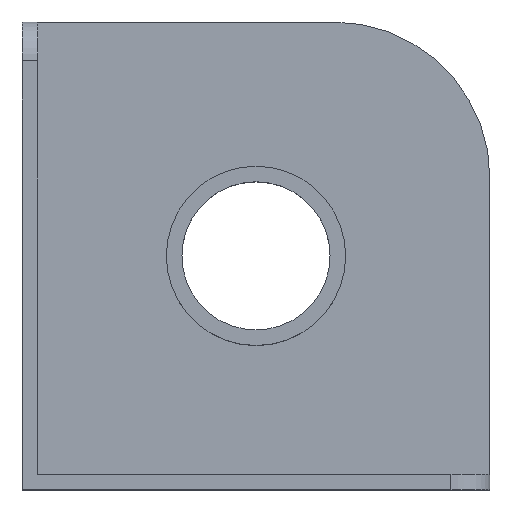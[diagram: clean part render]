
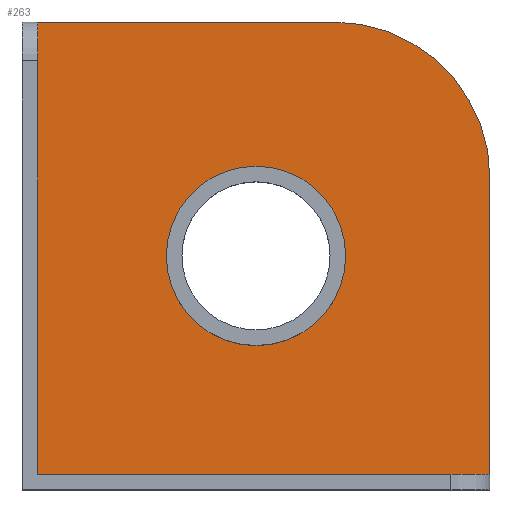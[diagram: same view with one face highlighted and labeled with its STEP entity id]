
A CAD part, top view. The second image highlights one B-rep face of the part: STEP entity #263.
In plain terms, the highlighted planar face has unit normal (0, 0, 1).
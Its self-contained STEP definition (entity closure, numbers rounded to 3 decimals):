
#16=FACE_BOUND('',#42,.T.);
#26=FACE_OUTER_BOUND('',#41,.T.);
#41=EDGE_LOOP('',(#188,#189,#190,#191,#192));
#42=EDGE_LOOP('',(#193));
#58=LINE('',#410,#84);
#62=LINE('',#425,#88);
#63=LINE('',#426,#89);
#64=LINE('',#427,#90);
#84=VECTOR('',#331,10.);
#88=VECTOR('',#345,10.);
#89=VECTOR('',#346,10.);
#90=VECTOR('',#347,10.);
#110=CIRCLE('',#302,11.5);
#112=CIRCLE('',#305,20.);
#121=VERTEX_POINT('',#407);
#122=VERTEX_POINT('',#409);
#124=VERTEX_POINT('',#415);
#126=VERTEX_POINT('',#421);
#127=VERTEX_POINT('',#422);
#128=VERTEX_POINT('',#424);
#145=EDGE_CURVE('',#122,#121,#58,.T.);
#148=EDGE_CURVE('',#124,#124,#110,.T.);
#151=EDGE_CURVE('',#126,#127,#112,.T.);
#152=EDGE_CURVE('',#128,#126,#62,.T.);
#153=EDGE_CURVE('',#128,#122,#63,.F.);
#154=EDGE_CURVE('',#127,#121,#64,.T.);
#188=ORIENTED_EDGE('',*,*,#151,.F.);
#189=ORIENTED_EDGE('',*,*,#152,.F.);
#190=ORIENTED_EDGE('',*,*,#153,.T.);
#191=ORIENTED_EDGE('',*,*,#145,.T.);
#192=ORIENTED_EDGE('',*,*,#154,.F.);
#193=ORIENTED_EDGE('',*,*,#148,.F.);
#252=PLANE('',#304);
#263=ADVANCED_FACE('',(#26,#16),#252,.T.);
#302=AXIS2_PLACEMENT_3D('',#416,#336,#337);
#304=AXIS2_PLACEMENT_3D('',#420,#341,#342);
#305=AXIS2_PLACEMENT_3D('',#423,#343,#344);
#331=DIRECTION('',(1.,0.,0.));
#336=DIRECTION('center_axis',(0.,0.,1.));
#337=DIRECTION('ref_axis',(1.,0.,0.));
#341=DIRECTION('center_axis',(0.,0.,1.));
#342=DIRECTION('ref_axis',(1.,0.,0.));
#343=DIRECTION('center_axis',(0.,0.,-1.));
#344=DIRECTION('ref_axis',(0.707,0.707,0.));
#345=DIRECTION('',(1.,0.,0.));
#346=DIRECTION('',(0.,1.,0.));
#347=DIRECTION('',(0.,-1.,0.));
#407=CARTESIAN_POINT('',(60.,2.,2.));
#409=CARTESIAN_POINT('',(2.,2.,2.));
#410=CARTESIAN_POINT('',(45.,2.,2.));
#415=CARTESIAN_POINT('',(18.5,30.,2.));
#416=CARTESIAN_POINT('Origin',(30.,30.,2.));
#420=CARTESIAN_POINT('Origin',(30.,30.,2.));
#421=CARTESIAN_POINT('',(40.,60.,2.));
#422=CARTESIAN_POINT('',(60.,40.,2.));
#423=CARTESIAN_POINT('Origin',(40.,40.,2.));
#424=CARTESIAN_POINT('',(2.,60.,2.));
#425=CARTESIAN_POINT('',(15.,60.,2.));
#426=CARTESIAN_POINT('',(2.,15.,2.));
#427=CARTESIAN_POINT('',(60.,45.,2.));
